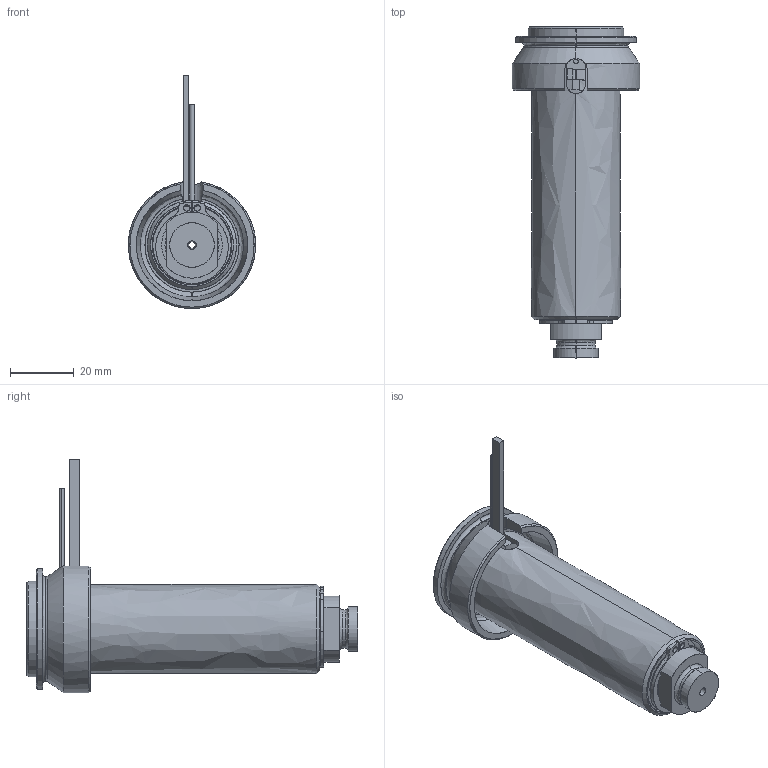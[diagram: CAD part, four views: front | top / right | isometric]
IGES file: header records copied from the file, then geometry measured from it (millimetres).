
Start section: SolidWorks IGES file using analytic representation for surfaces
Global section: file name: C:\Documents and Settings\ws-20\Desktop\TEMPORANEA\UGBE4002-M-A-3 [Ød-2.0 P-0 ØC-10].IGS; native system: SolidWorks 2012; preprocessor: SolidWorks 2012; author: ws-20; date: 120306.140602; units: millimetre
Bounding box: 40 x 104.25 x 73.3 mm (x, y, z)
Surface area: 32668.7 mm2 (no closed solid volume)
Topology: 0 solids, 0 shells, 107 faces, 1831 edges, 1831 vertices
Faces by surface type: revolution 60, bspline 47
